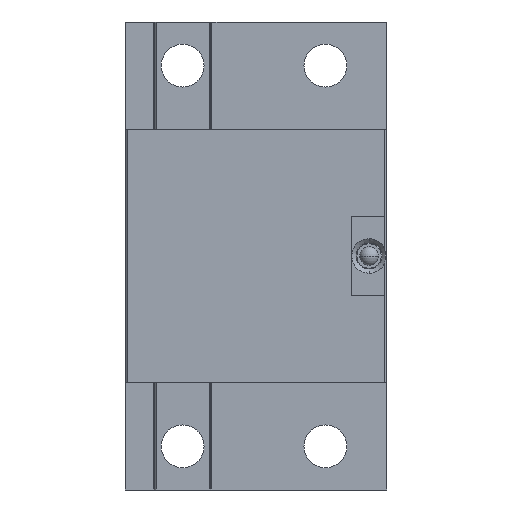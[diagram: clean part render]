
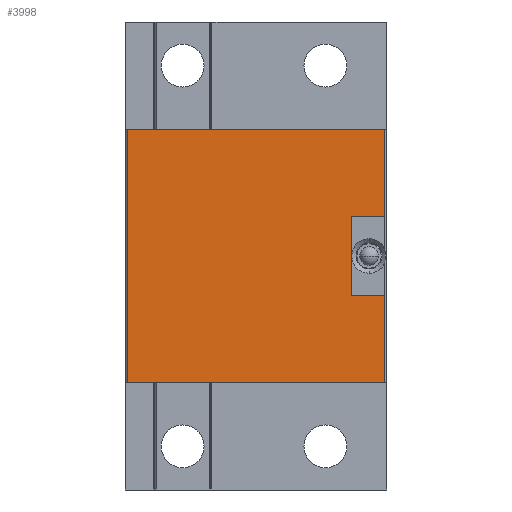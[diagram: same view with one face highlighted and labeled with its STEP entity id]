
A CAD part, front view. The second image highlights one B-rep face of the part: STEP entity #3998.
In plain terms, the highlighted planar face has unit normal (0, -1, 0).
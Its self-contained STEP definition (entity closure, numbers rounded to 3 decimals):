
#13 = CARTESIAN_POINT ( 'NONE',  ( -14., 7.1, -32. ) ) ;
#377 = DIRECTION ( 'NONE',  ( 0., 0., -1. ) ) ;
#473 = VERTEX_POINT ( 'NONE', #11147 ) ;
#522 = EDGE_LOOP ( 'NONE', ( #17476, #11954, #7888, #10614, #14267, #15470, #14115, #4934 ) ) ;
#862 = DIRECTION ( 'NONE',  ( 1., 0., 0. ) ) ;
#907 = EDGE_CURVE ( 'NONE', #1030, #4515, #3098, .T. ) ;
#1030 = VERTEX_POINT ( 'NONE', #6808 ) ;
#1064 = VERTEX_POINT ( 'NONE', #8553 ) ;
#1126 = VECTOR ( 'NONE', #2441, 1000. ) ;
#1365 = EDGE_CURVE ( 'NONE', #473, #1064, #5592, .T. ) ;
#1654 = DIRECTION ( 'NONE',  ( -1., 0., 0. ) ) ;
#2079 = CARTESIAN_POINT ( 'NONE',  ( 51., 7.1, -32. ) ) ;
#2122 = LINE ( 'NONE', #9869, #13810 ) ;
#2152 = DIRECTION ( 'NONE',  ( 0., 0., -1. ) ) ;
#2217 = DIRECTION ( 'NONE',  ( 0., 0., -1. ) ) ;
#2279 = EDGE_CURVE ( 'NONE', #7119, #16844, #18446, .T. ) ;
#2441 = DIRECTION ( 'NONE',  ( -1., 0., 0. ) ) ;
#3098 = LINE ( 'NONE', #9526, #4253 ) ;
#3167 = EDGE_CURVE ( 'NONE', #7119, #9996, #13577, .T. ) ;
#3998 = ADVANCED_FACE ( 'NONE', ( #6947 ), #8207, .T. ) ;
#4253 = VECTOR ( 'NONE', #4951, 1000. ) ;
#4515 = VERTEX_POINT ( 'NONE', #14197 ) ;
#4656 = VERTEX_POINT ( 'NONE', #16145 ) ;
#4934 = ORIENTED_EDGE ( 'NONE', *, *, #14681, .F. ) ;
#4951 = DIRECTION ( 'NONE',  ( 1., 0., 0. ) ) ;
#5047 = CARTESIAN_POINT ( 'NONE',  ( 51., 7.1, 32. ) ) ;
#5592 = LINE ( 'NONE', #12449, #18670 ) ;
#6808 = CARTESIAN_POINT ( 'NONE',  ( -14., 7.1, -32. ) ) ;
#6947 = FACE_OUTER_BOUND ( 'NONE', #522, .T. ) ;
#7119 = VERTEX_POINT ( 'NONE', #5047 ) ;
#7196 = AXIS2_PLACEMENT_3D ( 'NONE', #9678, #11008, #862 ) ;
#7367 = LINE ( 'NONE', #17234, #1126 ) ;
#7888 = ORIENTED_EDGE ( 'NONE', *, *, #17211, .T. ) ;
#8207 = PLANE ( 'NONE',  #7196 ) ;
#8553 = CARTESIAN_POINT ( 'NONE',  ( 51., 7.1, -10. ) ) ;
#9526 = CARTESIAN_POINT ( 'NONE',  ( -14.5, 7.1, -32. ) ) ;
#9678 = CARTESIAN_POINT ( 'NONE',  ( -14.5, 7.1, -32. ) ) ;
#9869 = CARTESIAN_POINT ( 'NONE',  ( 42.5, 7.1, 10. ) ) ;
#9996 = VERTEX_POINT ( 'NONE', #16761 ) ;
#10467 = CARTESIAN_POINT ( 'NONE',  ( -14.5, 7.1, 32. ) ) ;
#10614 = ORIENTED_EDGE ( 'NONE', *, *, #907, .T. ) ;
#10617 = EDGE_CURVE ( 'NONE', #1064, #4515, #12255, .T. ) ;
#11008 = DIRECTION ( 'NONE',  ( 0., -1., 0. ) ) ;
#11147 = CARTESIAN_POINT ( 'NONE',  ( 42.5, 7.1, -10. ) ) ;
#11167 = DIRECTION ( 'NONE',  ( 1., 0., 0. ) ) ;
#11495 = EDGE_CURVE ( 'NONE', #4656, #473, #2122, .T. ) ;
#11954 = ORIENTED_EDGE ( 'NONE', *, *, #2279, .T. ) ;
#12005 = LINE ( 'NONE', #13, #12466 ) ;
#12255 = LINE ( 'NONE', #12359, #17302 ) ;
#12359 = CARTESIAN_POINT ( 'NONE',  ( 51., 7.1, -32. ) ) ;
#12449 = CARTESIAN_POINT ( 'NONE',  ( 51.5, 7.1, -10. ) ) ;
#12466 = VECTOR ( 'NONE', #17614, 1000. ) ;
#13577 = LINE ( 'NONE', #2079, #17471 ) ;
#13810 = VECTOR ( 'NONE', #2217, 1000. ) ;
#14115 = ORIENTED_EDGE ( 'NONE', *, *, #11495, .F. ) ;
#14197 = CARTESIAN_POINT ( 'NONE',  ( 51., 7.1, -32. ) ) ;
#14267 = ORIENTED_EDGE ( 'NONE', *, *, #10617, .F. ) ;
#14518 = VECTOR ( 'NONE', #1654, 1000. ) ;
#14681 = EDGE_CURVE ( 'NONE', #9996, #4656, #7367, .T. ) ;
#15470 = ORIENTED_EDGE ( 'NONE', *, *, #1365, .F. ) ;
#16145 = CARTESIAN_POINT ( 'NONE',  ( 42.5, 7.1, 10. ) ) ;
#16761 = CARTESIAN_POINT ( 'NONE',  ( 51., 7.1, 10. ) ) ;
#16844 = VERTEX_POINT ( 'NONE', #18506 ) ;
#17211 = EDGE_CURVE ( 'NONE', #16844, #1030, #12005, .T. ) ;
#17234 = CARTESIAN_POINT ( 'NONE',  ( 51.5, 7.1, 10. ) ) ;
#17302 = VECTOR ( 'NONE', #377, 1000. ) ;
#17471 = VECTOR ( 'NONE', #2152, 1000. ) ;
#17476 = ORIENTED_EDGE ( 'NONE', *, *, #3167, .F. ) ;
#17614 = DIRECTION ( 'NONE',  ( 0., 0., -1. ) ) ;
#18446 = LINE ( 'NONE', #10467, #14518 ) ;
#18506 = CARTESIAN_POINT ( 'NONE',  ( -14., 7.1, 32. ) ) ;
#18670 = VECTOR ( 'NONE', #11167, 1000. ) ;
